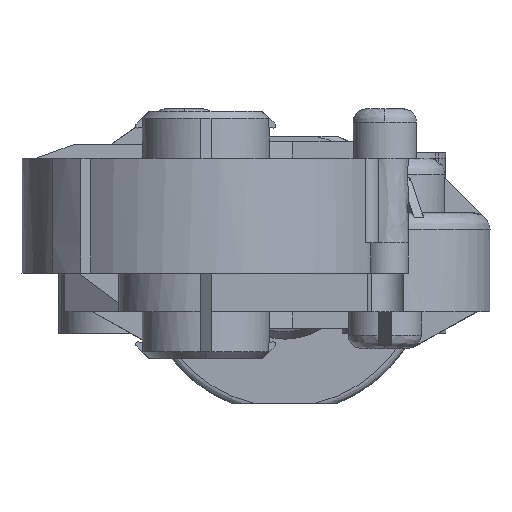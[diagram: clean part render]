
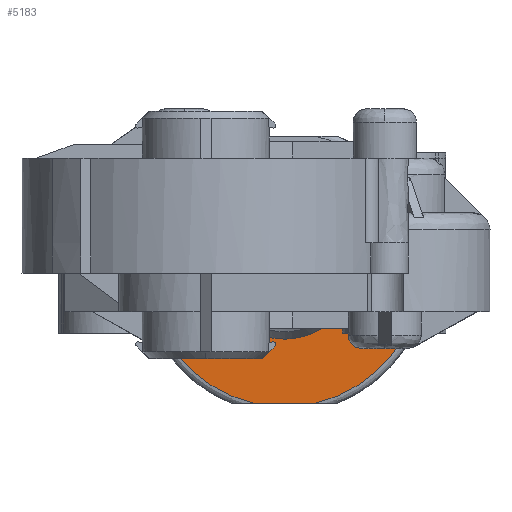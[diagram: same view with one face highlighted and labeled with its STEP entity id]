
A CAD part, front view. The second image highlights one B-rep face of the part: STEP entity #5183.
In plain terms, the highlighted free-form (B-spline) face has degree [1, 1] with [2, 2] control points.
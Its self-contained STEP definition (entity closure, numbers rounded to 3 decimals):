
#227 = CARTESIAN_POINT ( 'NONE',  ( 5.528, -3.5, -8.8 ) ) ;
#228 = CARTESIAN_POINT ( 'NONE',  ( 8.639, -3.5, -8.8 ) ) ;
#1338 = CARTESIAN_POINT ( 'NONE',  ( 5.528, -3.5, -8.8 ) ) ;
#1344 = CARTESIAN_POINT ( 'NONE',  ( 4.7, -3.5, -9.32 ) ) ;
#1345 = CARTESIAN_POINT ( 'NONE',  ( 3.816, -3.5, -9.716 ) ) ;
#1346 = CARTESIAN_POINT ( 'NONE',  ( 1.937, -3.5, -10.257 ) ) ;
#1347 = CARTESIAN_POINT ( 'NONE',  ( 0.978, -3.5, -10.392 ) ) ;
#1348 = CARTESIAN_POINT ( 'NONE',  ( 0., -3.5, -10.392 ) ) ;
#1379 = CARTESIAN_POINT ( 'NONE',  ( 4.5, -3.5, -20. ) ) ;
#1383 = CARTESIAN_POINT ( 'NONE',  ( 6.238, -3.5, -19.609 ) ) ;
#1384 = CARTESIAN_POINT ( 'NONE',  ( 7.897, -3.5, -19.001 ) ) ;
#1385 = CARTESIAN_POINT ( 'NONE',  ( 11.057, -3.5, -17.354 ) ) ;
#1386 = CARTESIAN_POINT ( 'NONE',  ( 12.505, -3.5, -16.342 ) ) ;
#1387 = CARTESIAN_POINT ( 'NONE',  ( 15.137, -3.5, -13.939 ) ) ;
#1388 = CARTESIAN_POINT ( 'NONE',  ( 16.277, -3.5, -12.589 ) ) ;
#1389 = CARTESIAN_POINT ( 'NONE',  ( 18.205, -3.5, -9.592 ) ) ;
#1390 = CARTESIAN_POINT ( 'NONE',  ( 18.96, -3.5, -7.995 ) ) ;
#1391 = CARTESIAN_POINT ( 'NONE',  ( 19.508, -3.5, -6.3 ) ) ;
#1392 = CARTESIAN_POINT ( 'NONE',  ( -19.508, -3.5, -6.3 ) ) ;
#1399 = CARTESIAN_POINT ( 'NONE',  ( 0., -3.5, -10.392 ) ) ;
#1400 = CARTESIAN_POINT ( 'NONE',  ( 8.639, -3.5, -6.3 ) ) ;
#1401 = CARTESIAN_POINT ( 'NONE',  ( 8.639, -3.5, -8.8 ) ) ;
#1402 = CARTESIAN_POINT ( 'NONE',  ( -4.5, -3.5, -20. ) ) ;
#1403 = CARTESIAN_POINT ( 'NONE',  ( 4.5, -3.5, -20. ) ) ;
#1404 = CARTESIAN_POINT ( 'NONE',  ( -18.96, -3.5, -7.995 ) ) ;
#1405 = CARTESIAN_POINT ( 'NONE',  ( -18.205, -3.5, -9.592 ) ) ;
#1406 = CARTESIAN_POINT ( 'NONE',  ( -16.277, -3.5, -12.589 ) ) ;
#1407 = CARTESIAN_POINT ( 'NONE',  ( -15.137, -3.5, -13.939 ) ) ;
#1408 = CARTESIAN_POINT ( 'NONE',  ( -12.505, -3.5, -16.342 ) ) ;
#1409 = CARTESIAN_POINT ( 'NONE',  ( -11.057, -3.5, -17.354 ) ) ;
#1410 = CARTESIAN_POINT ( 'NONE',  ( -7.897, -3.5, -19.001 ) ) ;
#1411 = CARTESIAN_POINT ( 'NONE',  ( -6.238, -3.5, -19.609 ) ) ;
#1412 = CARTESIAN_POINT ( 'NONE',  ( -4.5, -3.5, -20. ) ) ;
#1413 = CARTESIAN_POINT ( 'NONE',  ( 19.508, -3.5, -6.3 ) ) ;
#1414 = CARTESIAN_POINT ( 'NONE',  ( 8.639, -3.5, -6.3 ) ) ;
#1415 = CARTESIAN_POINT ( 'NONE',  ( -18.48, -3.5, -8.8 ) ) ;
#1416 = CARTESIAN_POINT ( 'NONE',  ( -18.48, -3.5, -6.3 ) ) ;
#1418 = CARTESIAN_POINT ( 'NONE',  ( -0.978, -3.5, -10.392 ) ) ;
#1419 = CARTESIAN_POINT ( 'NONE',  ( -1.937, -3.5, -10.257 ) ) ;
#1420 = CARTESIAN_POINT ( 'NONE',  ( -3.816, -3.5, -9.716 ) ) ;
#1421 = CARTESIAN_POINT ( 'NONE',  ( -4.7, -3.5, -9.32 ) ) ;
#1422 = CARTESIAN_POINT ( 'NONE',  ( -5.528, -3.5, -8.8 ) ) ;
#1442 = CARTESIAN_POINT ( 'NONE',  ( -18.48, -3.5, -6.3 ) ) ;
#1443 = CARTESIAN_POINT ( 'NONE',  ( -19.508, -3.5, -6.3 ) ) ;
#1738 = B_SPLINE_CURVE_WITH_KNOTS ( 'NONE', 3,
 ( #1338, #1344, #1345, #1346, #1347, #1348 ),
 .UNSPECIFIED., .F., .F.,
 ( 4, 2, 4 ),
 ( 0., 0.5, 1. ),
 .UNSPECIFIED. ) ;
#1744 = B_SPLINE_CURVE_WITH_KNOTS ( 'NONE', 3,
 ( #1379, #1383, #1384, #1385, #1386, #1387, #1388, #1389, #1390, #1391 ),
 .UNSPECIFIED., .F., .F.,
 ( 4, 2, 2, 2, 4 ),
 ( 0., 0.25, 0.5, 0.75, 1. ),
 .UNSPECIFIED. ) ;
#1748 = B_SPLINE_CURVE_WITH_KNOTS ( 'NONE', 1,
 ( #1400, #1401 ),
 .UNSPECIFIED., .F., .F.,
 ( 2, 2 ),
 ( 0., 1. ),
 .UNSPECIFIED. ) ;
#1749 = B_SPLINE_CURVE_WITH_KNOTS ( 'NONE', 1,
 ( #1402, #1403 ),
 .UNSPECIFIED., .F., .F.,
 ( 2, 2 ),
 ( 0., 1. ),
 .UNSPECIFIED. ) ;
#1750 = B_SPLINE_CURVE_WITH_KNOTS ( 'NONE', 3,
 ( #1392, #1404, #1405, #1406, #1407, #1408, #1409, #1410, #1411, #1412 ),
 .UNSPECIFIED., .F., .F.,
 ( 4, 2, 2, 2, 4 ),
 ( 0., 0.25, 0.5, 0.75, 1. ),
 .UNSPECIFIED. ) ;
#1751 = B_SPLINE_CURVE_WITH_KNOTS ( 'NONE', 1,
 ( #1413, #1414 ),
 .UNSPECIFIED., .F., .F.,
 ( 2, 2 ),
 ( 0., 1. ),
 .UNSPECIFIED. ) ;
#1752 = B_SPLINE_CURVE_WITH_KNOTS ( 'NONE', 1,
 ( #1415, #1416 ),
 .UNSPECIFIED., .F., .F.,
 ( 2, 2 ),
 ( 0., 1. ),
 .UNSPECIFIED. ) ;
#1753 = B_SPLINE_CURVE_WITH_KNOTS ( 'NONE', 3,
 ( #1399, #1418, #1419, #1420, #1421, #1422 ),
 .UNSPECIFIED., .F., .F.,
 ( 4, 2, 4 ),
 ( 0., 0.5, 1. ),
 .UNSPECIFIED. ) ;
#1755 = B_SPLINE_CURVE_WITH_KNOTS ( 'NONE', 1,
 ( #1442, #1443 ),
 .UNSPECIFIED., .F., .F.,
 ( 2, 2 ),
 ( 0., 1. ),
 .UNSPECIFIED. ) ;
#5183 = ADVANCED_FACE ( 'NONE', ( #13768 ), #15973, .T. ) ;
#7063 = EDGE_LOOP ( 'NONE', ( #8443, #8444, #8445, #8446, #8447, #8448, #8449, #8450, #8451, #8452, #8453 ) ) ;
#7914 = EDGE_CURVE ( 'NONE', #11491, #11512, #17557, .T. ) ;
#7925 = EDGE_CURVE ( 'NONE', #11039, #11037, #17568, .T. ) ;
#8150 = EDGE_CURVE ( 'NONE', #11039, #11511, #1738, .T. ) ;
#8156 = EDGE_CURVE ( 'NONE', #11437, #11409, #1744, .T. ) ;
#8160 = EDGE_CURVE ( 'NONE', #11412, #11037, #1748, .T. ) ;
#8161 = EDGE_CURVE ( 'NONE', #11510, #11437, #1749, .T. ) ;
#8162 = EDGE_CURVE ( 'NONE', #11435, #11510, #1750, .T. ) ;
#8163 = EDGE_CURVE ( 'NONE', #11409, #11412, #1751, .T. ) ;
#8164 = EDGE_CURVE ( 'NONE', #11491, #11023, #1752, .T. ) ;
#8165 = EDGE_CURVE ( 'NONE', #11511, #11512, #1753, .T. ) ;
#8167 = EDGE_CURVE ( 'NONE', #11023, #11435, #1755, .T. ) ;
#8443 = ORIENTED_EDGE ( 'NONE', *, *, #8162, .T. ) ;
#8444 = ORIENTED_EDGE ( 'NONE', *, *, #8161, .T. ) ;
#8445 = ORIENTED_EDGE ( 'NONE', *, *, #8156, .T. ) ;
#8446 = ORIENTED_EDGE ( 'NONE', *, *, #8163, .T. ) ;
#8447 = ORIENTED_EDGE ( 'NONE', *, *, #8160, .T. ) ;
#8448 = ORIENTED_EDGE ( 'NONE', *, *, #7925, .F. ) ;
#8449 = ORIENTED_EDGE ( 'NONE', *, *, #8150, .T. ) ;
#8450 = ORIENTED_EDGE ( 'NONE', *, *, #8165, .T. ) ;
#8451 = ORIENTED_EDGE ( 'NONE', *, *, #7914, .F. ) ;
#8452 = ORIENTED_EDGE ( 'NONE', *, *, #8164, .T. ) ;
#8453 = ORIENTED_EDGE ( 'NONE', *, *, #8167, .T. ) ;
#11023 = VERTEX_POINT ( 'NONE', #15410 ) ;
#11037 = VERTEX_POINT ( 'NONE', #15424 ) ;
#11039 = VERTEX_POINT ( 'NONE', #15426 ) ;
#11409 = VERTEX_POINT ( 'NONE', #15796 ) ;
#11412 = VERTEX_POINT ( 'NONE', #15799 ) ;
#11435 = VERTEX_POINT ( 'NONE', #15822 ) ;
#11437 = VERTEX_POINT ( 'NONE', #15824 ) ;
#11491 = VERTEX_POINT ( 'NONE', #15878 ) ;
#11510 = VERTEX_POINT ( 'NONE', #15897 ) ;
#11511 = VERTEX_POINT ( 'NONE', #15898 ) ;
#11512 = VERTEX_POINT ( 'NONE', #15899 ) ;
#13768 = FACE_OUTER_BOUND ( 'NONE', #7063, .T. ) ;
#15410 = CARTESIAN_POINT ( 'NONE',  ( -18.48, -3.5, -6.3 ) ) ;
#15424 = CARTESIAN_POINT ( 'NONE',  ( 8.639, -3.5, -8.8 ) ) ;
#15426 = CARTESIAN_POINT ( 'NONE',  ( 5.528, -3.5, -8.8 ) ) ;
#15796 = CARTESIAN_POINT ( 'NONE',  ( 19.508, -3.5, -6.3 ) ) ;
#15799 = CARTESIAN_POINT ( 'NONE',  ( 8.639, -3.5, -6.3 ) ) ;
#15822 = CARTESIAN_POINT ( 'NONE',  ( -19.508, -3.5, -6.3 ) ) ;
#15824 = CARTESIAN_POINT ( 'NONE',  ( 4.5, -3.5, -20. ) ) ;
#15878 = CARTESIAN_POINT ( 'NONE',  ( -18.48, -3.5, -8.8 ) ) ;
#15897 = CARTESIAN_POINT ( 'NONE',  ( -4.5, -3.5, -20. ) ) ;
#15898 = CARTESIAN_POINT ( 'NONE',  ( 0., -3.5, -10.392 ) ) ;
#15899 = CARTESIAN_POINT ( 'NONE',  ( -5.528, -3.5, -8.8 ) ) ;
#15973 = B_SPLINE_SURFACE_WITH_KNOTS ( 'NONE', 1, 1, ( 
 ( #16124, #16123 ),
 ( #16105, #16125 ) ),
 .UNSPECIFIED., .F., .F., .F.,
 ( 2, 2 ),
 ( 2, 2 ),
 ( 0.019, 0.981 ),
 ( 0., 1. ),
 .UNSPECIFIED. ) ;
#16105 = CARTESIAN_POINT ( 'NONE',  ( -19.742, -3.5, -6.3 ) ) ;
#16123 = CARTESIAN_POINT ( 'NONE',  ( 19.742, -3.5, -20. ) ) ;
#16124 = CARTESIAN_POINT ( 'NONE',  ( 19.742, -3.5, -6.3 ) ) ;
#16125 = CARTESIAN_POINT ( 'NONE',  ( -19.742, -3.5, -20. ) ) ;
#17319 = CARTESIAN_POINT ( 'NONE',  ( -18.48, -3.5, -8.8 ) ) ;
#17320 = CARTESIAN_POINT ( 'NONE',  ( -5.528, -3.5, -8.8 ) ) ;
#17557 = B_SPLINE_CURVE_WITH_KNOTS ( 'NONE', 1,
 ( #17319, #17320 ),
 .UNSPECIFIED., .F., .F.,
 ( 2, 2 ),
 ( 0., 1. ),
 .UNSPECIFIED. ) ;
#17568 = B_SPLINE_CURVE_WITH_KNOTS ( 'NONE', 1,
 ( #227, #228 ),
 .UNSPECIFIED., .F., .F.,
 ( 2, 2 ),
 ( 0., 1. ),
 .UNSPECIFIED. ) ;
